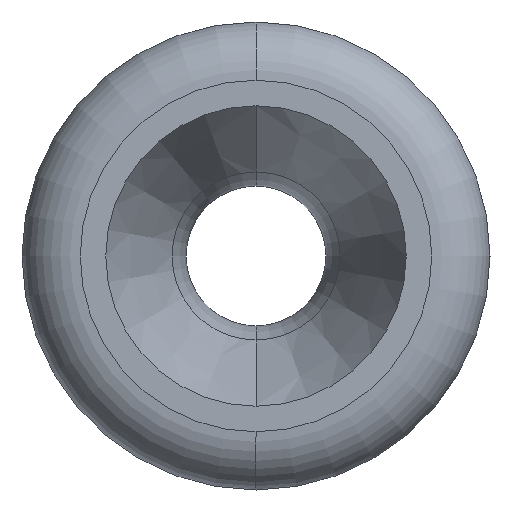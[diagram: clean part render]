
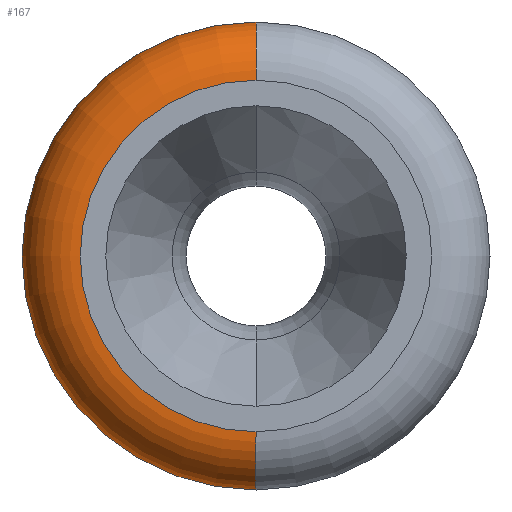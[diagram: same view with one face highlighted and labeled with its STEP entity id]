
A CAD part, left-side view. The second image highlights one B-rep face of the part: STEP entity #167.
In plain terms, the highlighted toroidal (fillet/blend) face has major radius 7.55 mm and minor radius 2.5 mm.
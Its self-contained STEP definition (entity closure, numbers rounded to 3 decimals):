
#167=ADVANCED_FACE('',(#376),#377,.T.);
#376=FACE_OUTER_BOUND('',#640,.T.);
#377=TOROIDAL_SURFACE('',#641,7.55,2.5);
#640=EDGE_LOOP('',(#1053,#1054,#1055,#1056));
#641=AXIS2_PLACEMENT_3D('',#1057,#1058,#1059);
#1053=ORIENTED_EDGE('',*,*,#1495,.T.);
#1054=ORIENTED_EDGE('',*,*,#1579,.F.);
#1055=ORIENTED_EDGE('',*,*,#1580,.F.);
#1056=ORIENTED_EDGE('',*,*,#1581,.F.);
#1057=CARTESIAN_POINT('',(7.,0.0,0.));
#1058=DIRECTION('',(-1.0,0.0,0.));
#1059=DIRECTION('',(0.,0.0,1.0));
#1495=EDGE_CURVE('',#1724,#1723,#1768,.T.);
#1579=EDGE_CURVE('',#1891,#1723,#1900,.T.);
#1580=EDGE_CURVE('',#1894,#1891,#1901,.T.);
#1581=EDGE_CURVE('',#1724,#1894,#1902,.T.);
#1723=VERTEX_POINT('',#2060);
#1724=VERTEX_POINT('',#2061);
#1768=CIRCLE('',#2105,10.05);
#1891=VERTEX_POINT('',#2244);
#1894=VERTEX_POINT('',#2248);
#1900=CIRCLE('',#2255,2.5);
#1901=CIRCLE('',#2256,7.55);
#1902=CIRCLE('',#2257,2.5);
#2060=CARTESIAN_POINT('',(7.,0.,-10.05));
#2061=CARTESIAN_POINT('',(7.,0.,10.05));
#2105=AXIS2_PLACEMENT_3D('',#2502,#2503,#2504);
#2244=CARTESIAN_POINT('',(4.5,0.,-7.55));
#2248=CARTESIAN_POINT('',(4.5,0.,7.55));
#2255=AXIS2_PLACEMENT_3D('',#2658,#2659,#2660);
#2256=AXIS2_PLACEMENT_3D('',#2661,#2662,#2663);
#2257=AXIS2_PLACEMENT_3D('',#2664,#2665,#2666);
#2502=CARTESIAN_POINT('',(7.,0.0,0.));
#2503=DIRECTION('',(-1.0,0.0,0.));
#2504=DIRECTION('',(0.,0.0,1.0));
#2658=CARTESIAN_POINT('',(7.,0.,-7.55));
#2659=DIRECTION('',(0.,-1.0,0.));
#2660=DIRECTION('',(0.,0.,-1.0));
#2661=CARTESIAN_POINT('',(4.5,0.0,0.));
#2662=DIRECTION('',(-1.0,0.0,0.));
#2663=DIRECTION('',(0.,0.0,-1.0));
#2664=CARTESIAN_POINT('',(7.,0.,7.55));
#2665=DIRECTION('',(0.,-1.0,0.));
#2666=DIRECTION('',(0.,0.,1.0));
